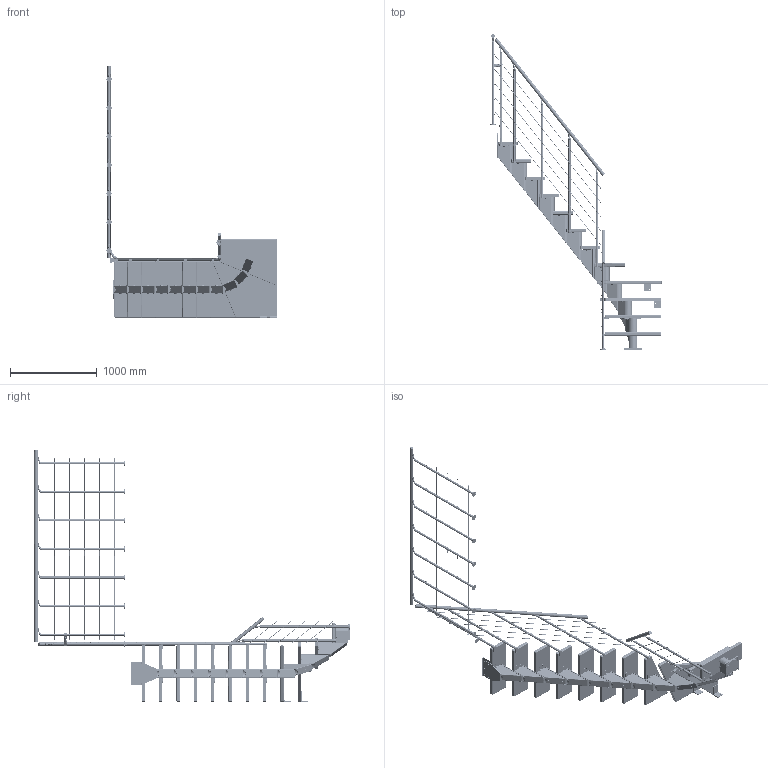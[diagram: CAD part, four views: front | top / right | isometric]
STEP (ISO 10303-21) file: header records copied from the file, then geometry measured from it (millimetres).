
FILE_DESCRIPTION (( 'STEP AP214' ), '1' );
FILE_NAME ('5480 - FRANKFURT ¼-sving STYLE 6 gelænder.STEP', '2021-09-03T09:36:42', ( '' ), ( '' ), 'SwSTEP 2.0', 'SolidWorks 2019', '' );
FILE_SCHEMA (( 'AUTOMOTIVE_DESIGN' ));
Length unit declared in the file: millimetre
Products named in the file (150): M2-1078306; K3-06027; K2-1077195_K2-1077197; K2-1077425_K2-1077427; M2-1078309; K1-14077; WIRE TOP^5066737; WIRE BUND^5066737; K2-1077625; K1-1077002; K2-1077025_K2-1077027; K1-34021; K1-14070_K1-14070-04; K2-1077155; K1-1077202; K1-1077170_K1-1077172; K3-08002; K1-1077150_K1-1077152; K2-1077195_90ø; K3-05002_K3-05002; K1-01040; K1-1077610_K1-1077612; K2-1077430_K2-1077432; K3-03008_M8-ISO4034_Simpel; K3-05064_DIN 913 - M4 x 4-N; K1-1077208; K1-40562_Default<As Machined>; M2-1078308; K1-1077209_K1-1077214; 1077480-01_13; K1-08310-01; K2-1077610_K2-1077612; K1-40560; K1-40200; HÅNDLISTE BUND^5066737; K3-05003_M8x6 ISO 4029 simpel; M2-1078905; K1-1077209; 5066737; K1-1077400_K1-1077402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
Assembly tree (449 placements, depth 5):
  K3-08002
  5480 - FRANKFURT ¼-sving STYLE 6 gelænder
    5066737
      1077480-01_13
        K2-1077420_K2-1077422
          K1-34031
          K1-34030
          K1-1077002
        K2-1077425_K2-1077427
          K1-34031
          K1-34030
        K2-1077425_K2-1077427
          K1-34031
          K1-34030
        K2-1077425_K2-1077427
          K1-34031
          K1-34030
        K2-1077425_K2-1077427
          K1-34031
          K1-34030
        K2-1077425_K2-1077427
          K1-34031
          K1-34030
        K2-1077425_K2-1077427
          K1-34031
          K1-34030
        K2-1077425_K2-1077427
          K1-34031
          K1-34030
        K2-1077425_K2-1077427
          K1-34031
          K1-34030
        K2-1077425_K2-1077427
          K1-34031
          K1-34030
        K2-1077425_K2-1077427
          K1-34031
          K1-34030
        K2-1077430_K2-1077432
          K1-34021
          K1-34020___
          K1-1077411
        K2-1077440_K2-1077442
          K1-34010
          K1-34011
        K1-1077400_K1-1077402
        K1-1077070_K1-1077072
      M2-1078300
      M2-1078301  x7
      M2-1078306
      M2-1078307
      M2-1078308
      M2-1078309
      K2-1077025_K2-1077027
        K1-40560
        K1-40561
      K2-1077030_K2-1077032
        K1-40562_Default<As Machined>
        K1-40560
      K2-1077025_K2-1077027
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Bounding box: 1977.16 x 3641.47 x 2905 mm (x, y, z)
Volume: 88416615.3 mm3; surface area: 12106111 mm2
Topology: 389 solids, 389 shells, 10524 faces, 25494 edges, 15545 vertices
Faces by surface type: cylinder 3752, plane 3054, torus 1192, cone 1170, bspline 968, sphere 388
Entity records: 99912 total; most frequent: CARTESIAN_POINT 37731, DIRECTION 12437, ORIENTED_EDGE 11294, EDGE_CURVE 5647, AXIS2_PLACEMENT_3D 5076, VERTEX_POINT 3519, EDGE_LOOP 2516, CIRCLE 2404
